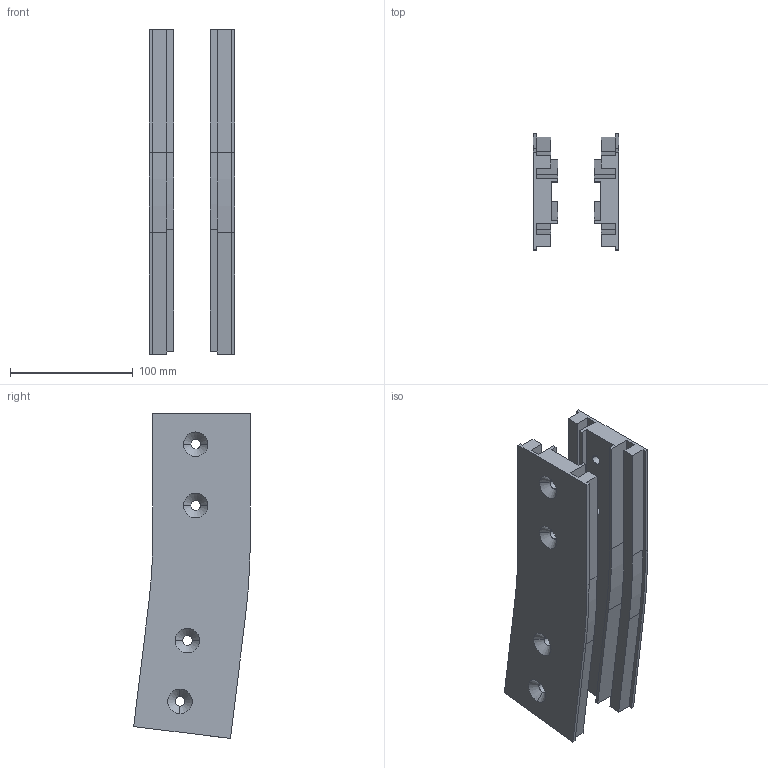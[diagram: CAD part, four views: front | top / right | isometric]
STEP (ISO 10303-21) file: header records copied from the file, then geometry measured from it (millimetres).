
FILE_DESCRIPTION (( 'STEP AP203' ), '1' );
FILE_NAME ('R1CV500-7.STEP', '2008-11-20T10:20:04', ( 'faber' ), ( '' ), 'SwSTEP 2.0', 'SolidWorks 2008', '' );
FILE_SCHEMA (( 'CONFIG_CONTROL_DESIGN' ));
Length unit declared in the file: millimetre
Products named in the file (1): R1CV500-7
Bounding box: 70 x 95.22 x 265.04 mm (x, y, z)
Volume: 464892.4 mm3; surface area: 140083.7 mm2
Topology: 2 solids, 2 shells, 116 faces, 322 edges, 210 vertices
Faces by surface type: plane 64, cylinder 36, cone 16
Entity records: 3811 total; most frequent: CARTESIAN_POINT 649, DIRECTION 646, ORIENTED_EDGE 644, EDGE_CURVE 322, LINE 232, VECTOR 232, VERTEX_POINT 210, AXIS2_PLACEMENT_3D 207
